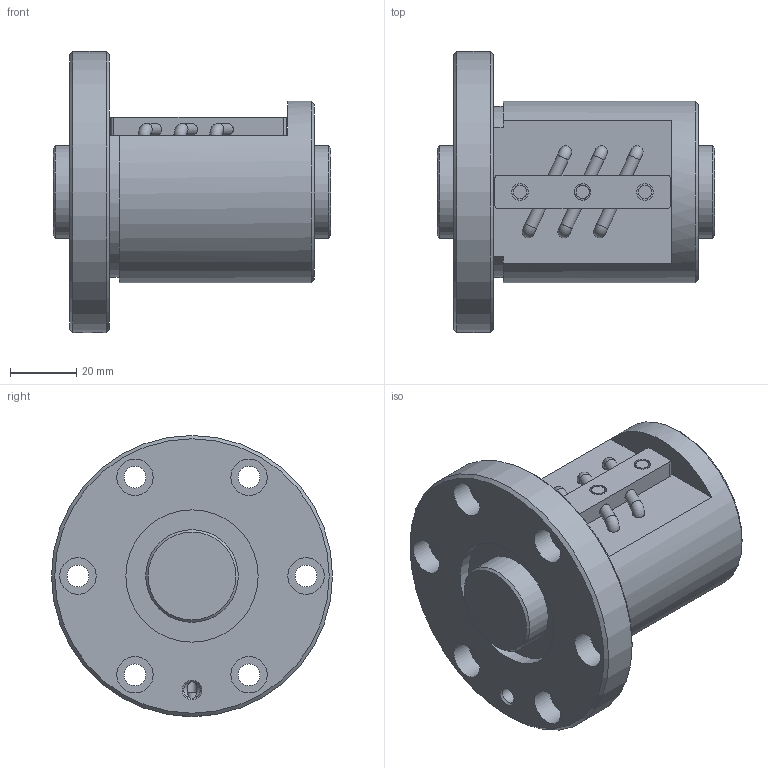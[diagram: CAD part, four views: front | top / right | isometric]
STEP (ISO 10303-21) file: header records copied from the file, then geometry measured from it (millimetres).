
FILE_DESCRIPTION(/* description */ ('STEP AP203'),/* implementation_level */ '2;1');
FILE_NAME(/* name */ 'BNF2805V-7.5RRG1+84LC0_000_rev',/* time_stamp */ '2024-08-06T07:30:44+02:00',/* author */ ('License CC BY-ND 4.0'),/* organization */ ('CADENAS'),/* preprocessor_version */ 'ST-DEVELOPER v19.3',/* originating_system */ 'PARTsolutions',/* authorisation */ ' ');
FILE_SCHEMA (('CONFIG_CONTROL_DESIGN'));
Length unit declared in the file: millimetre
Products named in the file (3): BNF2805V-7.5RRG1+84LC0_000_rev; BNF 2805-7.5RR000 Shaft; BNF 2805-7.5RR Nut
Assembly tree (2 placements, depth 2):
  BNF2805V-7.5RRG1+84LC0_000_rev
    BNF 2805-7.5RR000 Shaft
    BNF 2805-7.5RR Nut
Bounding box: 84 x 85 x 85 mm (x, y, z)
Volume: 197283.6 mm3; surface area: 42887.7 mm2
Topology: 2 solids, 2 shells, 85 faces, 198 edges, 131 vertices
Faces by surface type: cylinder 41, plane 30, cone 8, torus 6
Full cylindrical faces by diameter (mm): 3 x2, 3.665 x6, 4 x3, 4.917 x1, 5 x3, 6.6 x6, 11 x6, 28 x2, 40 x2, 55 x1, 85 x1
Entity records: 2221 total; most frequent: CARTESIAN_POINT 400, DIRECTION 386, ORIENTED_EDGE 262, AXIS2_PLACEMENT_3D 179, EDGE_LOOP 174, FACE_BOUND 174, EDGE_CURVE 131, VERTEX_POINT 111
